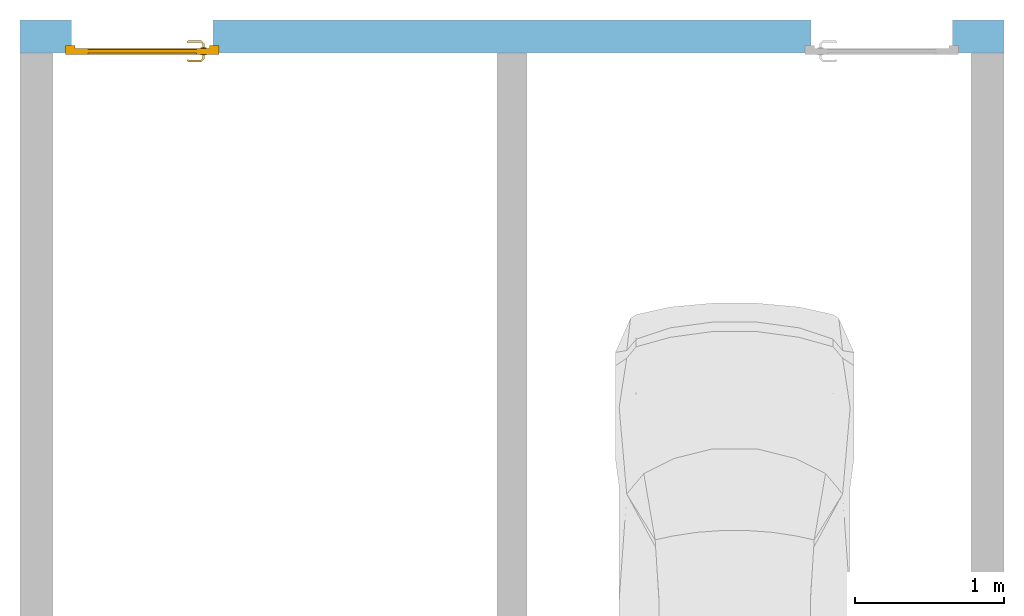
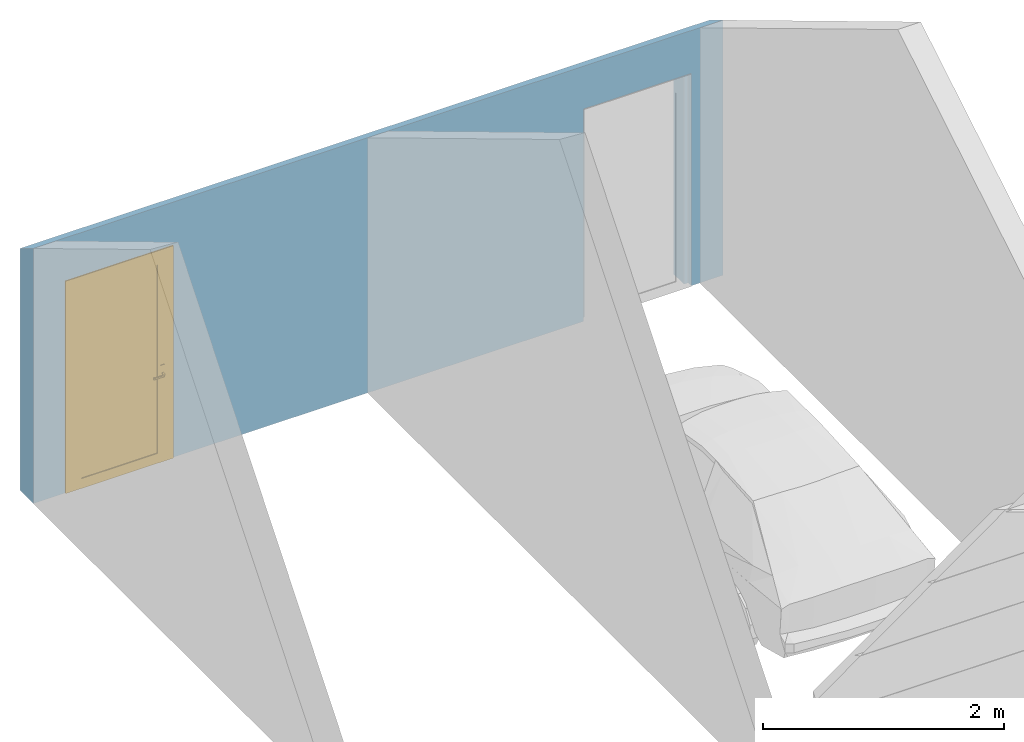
# One storey, part 2 of 3: 1 door, 2 openings, plus 1 element that does not belong to this part.
"""IFC2X3 building model written with IfcOpenShell, lengths in metres."""

from ifc_helpers import new_model, entity, si_unit, converted_unit, derived_unit, direction, frame, frame_2d, origin, place, context, subcontext, project, spatial, polyline, rectangle, extrude, clip, bounded_halfspace, faceted_brep, source, transform, mapped, material, material_list, layer, layer_set, layer_usage, type_object, type_shapes, element, fill, save


model = new_model("IFC2X3")

# Units and contexts
model_context = context("Model", 3, precision=1e-05, world=origin(), true_north=direction((6.12303176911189e-17, 1.0)))
body_context = subcontext(model_context, "Body", "Model", "MODEL_VIEW")
ifc_project = project(units=[si_unit("LENGTHUNIT", "METRE"), si_unit("AREAUNIT", "SQUARE_METRE"), si_unit("VOLUMEUNIT", "CUBIC_METRE"), converted_unit("PLANEANGLEUNIT", "DEGREE", entity("IfcRatioMeasure", 0.0174532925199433), si_unit("PLANEANGLEUNIT", "RADIAN"), dimensions=[0, 0, 0, 0, 0, 0, 0]), si_unit("MASSUNIT", "GRAM", prefix="KILO"), si_unit("TIMEUNIT", "SECOND"), si_unit("FREQUENCYUNIT", "HERTZ"), si_unit("THERMODYNAMICTEMPERATUREUNIT", "DEGREE_CELSIUS"), derived_unit("THERMALTRANSMITTANCEUNIT", [(si_unit("MASSUNIT", "GRAM", prefix="KILO"), 1), (si_unit("THERMODYNAMICTEMPERATUREUNIT", "KELVIN"), -1), (si_unit("TIMEUNIT", "SECOND"), -3)]), derived_unit("VOLUMETRICFLOWRATEUNIT", [(si_unit("LENGTHUNIT", "METRE"), 3), (si_unit("TIMEUNIT", "SECOND"), -1)]), si_unit("ELECTRICCURRENTUNIT", "AMPERE"), si_unit("ELECTRICVOLTAGEUNIT", "VOLT"), si_unit("POWERUNIT", "WATT"), si_unit("FORCEUNIT", "NEWTON", prefix="KILO"), si_unit("ILLUMINANCEUNIT", "LUX"), si_unit("LUMINOUSFLUXUNIT", "LUMEN"), si_unit("LUMINOUSINTENSITYUNIT", "CANDELA"), derived_unit("USERDEFINED", [(si_unit("MASSUNIT", "GRAM", prefix="KILO"), -1), (si_unit("LENGTHUNIT", "METRE"), -2), (si_unit("TIMEUNIT", "SECOND"), 3), (si_unit("LUMINOUSFLUXUNIT", "LUMEN"), 1)]), derived_unit("LINEARVELOCITYUNIT", [(si_unit("LENGTHUNIT", "METRE"), 1), (si_unit("TIMEUNIT", "SECOND"), -1)]), si_unit("PRESSUREUNIT", "PASCAL"), derived_unit("USERDEFINED", [(si_unit("LENGTHUNIT", "METRE"), -2), (si_unit("MASSUNIT", "GRAM", prefix="KILO"), 1), (si_unit("TIMEUNIT", "SECOND"), -2)])], contexts=[model_context])

# Site, building, storey
site_placement = place(None, origin())
site = spatial("IfcSite", under=ifc_project, at=site_placement, Name="Surface", CompositionType="ELEMENT")
building_placement = place(site_placement, origin())
building = spatial("IfcBuilding", under=site, at=building_placement, CompositionType="ELEMENT")
storey_placement = place(building_placement, origin())
storey = spatial("IfcBuildingStorey", under=building, at=storey_placement, Name="Plan du rez de chaussée", CompositionType="ELEMENT", Elevation=0.0)

# Wall, openings, door
ifc_material_1 = material(Name="Maçonnerie - Enduit")
ifc_layer_1 = layer(ifc_material_1, 0.02)
ifc_material_2 = material(Name="Maçonnerie - Béton")
ifc_layer_2 = layer(ifc_material_2, 0.2)
ifc_layer_set = layer_set([ifc_layer_1, ifc_layer_2], Name="Mur de base:Ext.BBM + enduit 22")
ifc_layer_usage = layer_usage(ifc_layer_set, "AXIS2", "NEGATIVE", 0.11)
wall_type = type_object("IfcWallType", Name="Mur de base:Ext.BBM + enduit 22", PredefinedType="STANDARD", material=ifc_layer_set)
wall_placement = place(storey_placement, frame((-9.92801835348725, 2.5851324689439, 0.0)))
wall = element("IfcWallStandardCase", 1, at=wall_placement, inside=storey, type_object=wall_type, material=ifc_layer_usage, Name="Mur de base:Ext.BBM + enduit 22", ObjectType="Mur de base:Ext.BBM + enduit 22", context=body_context, shape_type="Clipping", body=[
    clip(extrude(rectangle(XDim=6.60000000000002, YDim=0.22, at=frame_2d((3.30000000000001, 0.0), x_axis=(-1.0, 0.0))), origin(), (0.0, 0.0, 1.0), 2.58218933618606), bounded_halfspace(frame((0.0, -0.11, 2.58218933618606), z_axis=(0.0, 0.515038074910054, 0.857167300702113), x_axis=(-1.0, 0.0, 0.0)), False, frame((0.0, -0.11, 2.58218933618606)), polyline([(0.0, 0.0), (0.219999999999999, 0.0), (3.2, 0.0), (3.4, 0.0), (6.38000000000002, 0.0), (6.60000000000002, 0.0), (6.60000000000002, 0.22), (0.0, 0.22), (0.0, 0.0)]))),
])
opening_1_placement = place(wall_placement, frame((0.305000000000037, -0.410000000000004, 0.0)))
opening_1 = element("IfcOpeningElement", 2, at=opening_1_placement, cuts=wall, Name="Mur de base:Ext.BBM + enduit 22", ObjectType="Opening", context=body_context, shape_type="Brep", body=[
    faceted_brep([(0.98999999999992, 0.820000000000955, 2.11000000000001), (0.0400000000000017, 0.820000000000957, 2.11000000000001), (0.0400000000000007, 0.350000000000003, 2.11000000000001), (0.989999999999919, 0.35, 2.11000000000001), (0.0400000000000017, 0.820000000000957, 0.0), (0.98999999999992, 0.820000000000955, 0.0), (0.989999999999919, 0.35, 0.0), (1.02999999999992, 0.35, 0.0), (1.02999999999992, 0.3, 0.0), (0.989999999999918, 0.3, 0.0), (0.989999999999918, 0.0, 0.0), (0.0399999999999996, 0.0, 0.0), (0.0399999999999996, 0.300000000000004, 0.0), (0.0, 0.300000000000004, 0.0), (0.0, 0.350000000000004, 0.0), (0.0400000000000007, 0.350000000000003, 0.0), (0.989999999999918, 0.0, 2.11000000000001), (0.0399999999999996, 0.0, 2.11000000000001), (1.02999999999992, 0.3, 2.15000000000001), (0.0, 0.300000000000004, 2.15000000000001), (0.0400000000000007, 0.300000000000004, 2.11000000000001), (0.989999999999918, 0.3, 2.11000000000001), (1.02999999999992, 0.35, 2.15000000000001), (0.0, 0.350000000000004, 2.15000000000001)], [[[0, 1, 2, 3]], [[4, 5, 6, 7, 8, 9, 10, 11, 12, 13, 14, 15]], [[1, 0, 5, 4]], [[5, 0, 3, 6]], [[16, 17, 11, 10]], [[1, 4, 15, 2]], [[9, 8, 18, 19, 13, 12, 20, 21]], [[8, 7, 22, 18]], [[7, 6, 3, 2, 15, 14, 23, 22]], [[19, 18, 22, 23]], [[13, 19, 23, 14]], [[11, 17, 20, 12]], [[16, 10, 9, 21]], [[17, 16, 21, 20]]]),
])
opening_2_placement = place(wall_placement, frame((5.26500000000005, -0.41000000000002, 0.0)))
element("IfcOpeningElement", 3, at=opening_2_placement, cuts=wall, Name="Mur de base:Ext.BBM + enduit 22", ObjectType="Opening", context=body_context, shape_type="Brep", body=[
    faceted_brep([(0.989999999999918, 0.0, 2.11000000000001), (0.989999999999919, 0.3, 2.11000000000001), (0.0400000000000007, 0.300000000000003, 2.11000000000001), (0.0399999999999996, 0.0, 2.11000000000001), (0.989999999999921, 0.820000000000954, 0.0), (0.989999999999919, 0.35, 0.0), (1.02999999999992, 0.35, 0.0), (1.02999999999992, 0.3, 0.0), (0.989999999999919, 0.3, 0.0), (0.989999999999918, 0.0, 0.0), (0.0399999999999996, 0.0, 0.0), (0.0400000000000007, 0.300000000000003, 0.0), (0.0, 0.300000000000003, 0.0), (0.0, 0.350000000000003, 0.0), (0.0400000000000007, 0.350000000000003, 0.0), (0.0400000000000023, 0.820000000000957, 0.0), (0.989999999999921, 0.820000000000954, 2.11000000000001), (0.0400000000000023, 0.820000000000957, 2.11000000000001), (0.989999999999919, 0.35, 2.11000000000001), (1.02999999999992, 0.3, 2.15000000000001), (0.0, 0.300000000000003, 2.15000000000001), (0.0, 0.350000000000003, 2.15000000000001), (1.02999999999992, 0.35, 2.15000000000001), (0.0400000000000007, 0.350000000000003, 2.11000000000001)], [[[0, 1, 2, 3]], [[4, 5, 6, 7, 8, 9, 10, 11, 12, 13, 14, 15]], [[16, 4, 15, 17]], [[3, 2, 11, 10]], [[3, 10, 9, 0]], [[16, 18, 5, 4]], [[11, 2, 1, 8, 7, 19, 20, 12]], [[12, 20, 21, 13]], [[13, 21, 22, 6, 5, 18, 23, 14]], [[19, 22, 21, 20]], [[7, 6, 22, 19]], [[9, 8, 1, 0]], [[15, 14, 23, 17]], [[17, 23, 18, 16]]]),
])
ifc_material_3 = material(Name="Poignée PVC")
ifc_material_4 = material(Name="PVC Blanc")
ifc_material_list_1 = material_list([ifc_material_3, ifc_material_4])
ifc_material_list_2 = material_list([ifc_material_3, ifc_material_4])
door_style = type_object("IfcDoorStyle", Name="93 x 210 - (90)", ConstructionType="NOTDEFINED", OperationType="SINGLE_SWING_RIGHT", ParameterTakesPrecedence=False, Sizeable=False, material=ifc_material_list_2)
shared_shape = source(origin(), body_context, "Body", "Brep", [
    faceted_brep([(0.927025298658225, -0.27258714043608, 0.907780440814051), (0.922974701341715, -0.27258714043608, 0.907780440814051), (0.918999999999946, -0.27258714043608, 0.90699999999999), (0.918999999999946, -0.27258714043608, 0.89300000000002), (0.922974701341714, -0.27258714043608, 0.892219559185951), (0.927025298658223, -0.27258714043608, 0.892219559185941), (0.930999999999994, -0.27258714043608, 0.892999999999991), (0.930999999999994, -0.27258714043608, 0.90699999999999), (0.918999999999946, -0.250101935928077, 0.90699999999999), (0.918999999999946, -0.250101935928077, 0.89300000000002), (0.922974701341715, -0.248455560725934, 0.907780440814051), (0.927025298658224, -0.246777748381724, 0.907780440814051), (0.910838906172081, -0.230591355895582, 0.907780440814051), (0.909161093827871, -0.234641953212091, 0.907780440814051), (0.825793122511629, -0.234641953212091, 0.907780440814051), (0.824115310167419, -0.230591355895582, 0.907780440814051), (0.81645104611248, -0.238255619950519, 0.907780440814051), (0.819315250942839, -0.241119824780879, 0.907780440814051), (0.930999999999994, -0.24513137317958, 0.90699999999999), (0.930999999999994, -0.24513137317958, 0.892999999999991), (0.927025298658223, -0.246777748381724, 0.892219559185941), (0.922974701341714, -0.248455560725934, 0.892219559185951), (0.90916109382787, -0.234641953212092, 0.892219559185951), (0.910838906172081, -0.230591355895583, 0.892219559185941), (0.824115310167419, -0.230591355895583, 0.89221955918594), (0.825793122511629, -0.234641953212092, 0.89221955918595), (0.81931525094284, -0.24111982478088, 0.89221955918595), (0.816451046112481, -0.23825561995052, 0.89221955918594), (0.907514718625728, -0.23861665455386, 0.89300000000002), (0.907514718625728, -0.23861665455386, 0.90699999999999), (0.912485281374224, -0.226616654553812, 0.90699999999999), (0.912485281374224, -0.226616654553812, 0.892999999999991), (0.86747710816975, -0.23861665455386, 0.90699999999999), (0.827439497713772, -0.23861665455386, 0.90699999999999), (0.827439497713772, -0.23861665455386, 0.89300000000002), (0.86747710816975, -0.23861665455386, 0.89300000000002), (0.867477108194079, -0.232462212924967, 0.907878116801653), (0.862399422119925, -0.226616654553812, 0.90699999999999), (0.822468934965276, -0.226616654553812, 0.90699999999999), (0.872554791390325, -0.226616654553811, 0.892999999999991), (0.822468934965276, -0.226616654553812, 0.892999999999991), (0.86747710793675, -0.232462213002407, 0.892121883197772), (0.813640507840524, -0.235445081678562, 0.90699999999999), (0.813640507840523, -0.235445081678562, 0.892999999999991), (0.822125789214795, -0.243930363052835, 0.89300000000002), (0.822125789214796, -0.243930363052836, 0.90699999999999)], [[[0, 1, 2, 3, 4, 5, 6, 7]], [[8, 9, 3, 2]], [[1, 10, 8, 2]], [[1, 0, 11, 12, 13, 10]], [[14, 15, 16, 17]], [[7, 18, 11, 0]], [[18, 7, 6, 19]], [[6, 5, 20, 19]], [[5, 4, 21, 22, 23, 20]], [[24, 25, 26, 27]], [[4, 3, 9, 21]], [[28, 9, 8, 29]], [[8, 10, 13, 29]], [[18, 30, 12, 11]], [[31, 30, 18, 19]], [[19, 20, 23, 31]], [[21, 9, 28, 22]], [[28, 29, 32, 33, 34, 35]], [[36, 32, 13]], [[37, 38, 15]], [[37, 12, 30]], [[36, 12, 37]], [[14, 32, 36]], [[36, 15, 14]], [[29, 13, 32]], [[32, 14, 33]], [[12, 36, 13]], [[15, 36, 37]], [[30, 31, 39, 40, 38, 37]], [[23, 41, 39]], [[24, 39, 41]], [[39, 31, 23]], [[39, 24, 40]], [[22, 35, 41]], [[41, 23, 22]], [[41, 35, 25]], [[35, 22, 28]], [[34, 25, 35]], [[24, 41, 25]], [[17, 16, 42, 43, 27, 26, 44, 45]], [[44, 34, 33, 45]], [[33, 14, 17, 45]], [[15, 38, 42, 16]], [[42, 38, 40, 43]], [[24, 27, 43, 40]], [[34, 44, 26, 25]]]),
    faceted_brep([(0.922974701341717, -0.32258714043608, 0.907780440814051), (0.927025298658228, -0.32258714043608, 0.907780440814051), (0.930999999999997, -0.32258714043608, 0.906999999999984), (0.930999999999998, -0.32258714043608, 0.892999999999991), (0.927025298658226, -0.32258714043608, 0.892219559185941), (0.922974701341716, -0.32258714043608, 0.89221955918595), (0.918999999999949, -0.32258714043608, 0.893000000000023), (0.918999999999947, -0.32258714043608, 0.90699999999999), (0.927025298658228, -0.348591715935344, 0.907780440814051), (0.930999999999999, -0.350238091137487, 0.906999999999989), (0.922974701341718, -0.346913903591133, 0.907780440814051), (0.909298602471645, -0.360590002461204, 0.907780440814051), (0.910976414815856, -0.364640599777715, 0.907780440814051), (0.824142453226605, -0.364640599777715, 0.90778044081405), (0.825820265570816, -0.360590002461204, 0.90778044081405), (0.819342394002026, -0.354112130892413, 0.90778044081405), (0.816478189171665, -0.356976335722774, 0.90778044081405), (0.918999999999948, -0.345267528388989, 0.90699999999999), (0.918999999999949, -0.34526752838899, 0.893000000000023), (0.922974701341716, -0.346913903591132, 0.89221955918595), (0.927025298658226, -0.348591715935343, 0.89221955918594), (0.910976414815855, -0.364640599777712, 0.89221955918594), (0.909298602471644, -0.360590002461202, 0.89221955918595), (0.825820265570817, -0.360590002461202, 0.89221955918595), (0.824142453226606, -0.364640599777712, 0.89221955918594), (0.816478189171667, -0.356976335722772, 0.89221955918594), (0.819342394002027, -0.354112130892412, 0.89221955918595), (0.930999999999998, -0.350238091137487, 0.892999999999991), (0.912622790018, -0.368615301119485, 0.906999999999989), (0.907652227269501, -0.356615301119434, 0.90699999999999), (0.907652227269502, -0.356615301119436, 0.893000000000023), (0.912622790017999, -0.368615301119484, 0.892999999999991), (0.86755943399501, -0.362769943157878, 0.907878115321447), (0.872692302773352, -0.368615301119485, 0.906999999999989), (0.822496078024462, -0.368615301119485, 0.906999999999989), (0.867559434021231, -0.356615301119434, 0.90699999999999), (0.82746664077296, -0.356615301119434, 0.906999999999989), (0.867559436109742, -0.356615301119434, 0.893000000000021), (0.82746664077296, -0.356615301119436, 0.893000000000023), (0.867559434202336, -0.362769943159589, 0.892121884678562), (0.862426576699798, -0.368615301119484, 0.892999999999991), (0.822496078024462, -0.368615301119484, 0.892999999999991), (0.822152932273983, -0.351301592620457, 0.89300000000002), (0.813667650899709, -0.359786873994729, 0.892999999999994), (0.813667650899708, -0.35978687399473, 0.906999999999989), (0.822152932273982, -0.351301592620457, 0.906999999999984)], [[[0, 1, 2, 3, 4, 5, 6, 7]], [[2, 1, 8, 9]], [[1, 0, 10, 11, 12, 8]], [[13, 14, 15, 16]], [[0, 7, 17, 10]], [[18, 17, 7, 6]], [[5, 19, 18, 6]], [[5, 4, 20, 21, 22, 19]], [[23, 24, 25, 26]], [[3, 27, 20, 4]], [[9, 27, 3, 2]], [[9, 8, 12, 28]], [[10, 17, 29, 11]], [[30, 29, 17, 18]], [[18, 19, 22, 30]], [[20, 27, 31, 21]], [[28, 31, 27, 9]], [[12, 32, 33]], [[13, 33, 32]], [[33, 28, 12]], [[33, 13, 34]], [[11, 35, 32]], [[32, 12, 11]], [[32, 35, 14]], [[35, 11, 29]], [[36, 14, 35]], [[13, 32, 14]], [[30, 37, 38, 36, 35, 29]], [[39, 37, 22]], [[40, 41, 24]], [[40, 21, 31]], [[39, 21, 40]], [[23, 37, 39]], [[39, 24, 23]], [[30, 22, 37]], [[37, 23, 38]], [[21, 39, 22]], [[24, 39, 40]], [[31, 28, 33, 34, 41, 40]], [[42, 26, 25, 43, 44, 16, 15, 45]], [[13, 16, 44, 34]], [[36, 45, 15, 14]], [[42, 45, 36, 38]], [[38, 23, 26, 42]], [[24, 41, 43, 25]], [[44, 43, 41, 34]]]),
    faceted_brep([(0.944999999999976, -0.27758714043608, 0.770000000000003), (0.944999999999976, -0.27758714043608, 0.980000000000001), (0.935352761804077, -0.27758714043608, 0.983996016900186), (0.924999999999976, -0.27758714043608, 0.985358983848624), (0.914647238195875, -0.27758714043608, 0.983996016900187), (0.904999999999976, -0.27758714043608, 0.980000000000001), (0.904999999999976, -0.27758714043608, 0.770000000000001), (0.914647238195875, -0.27758714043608, 0.766003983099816), (0.924999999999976, -0.27758714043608, 0.764641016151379), (0.935352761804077, -0.27758714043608, 0.766003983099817), (0.924999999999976, -0.27258714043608, 0.985358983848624), (0.935352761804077, -0.27258714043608, 0.983996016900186), (0.944999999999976, -0.27258714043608, 0.980000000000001), (0.944999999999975, -0.27258714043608, 0.770000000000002), (0.935352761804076, -0.27258714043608, 0.766003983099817), (0.924999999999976, -0.27258714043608, 0.764641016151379), (0.914647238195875, -0.27258714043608, 0.766003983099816), (0.904999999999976, -0.27258714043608, 0.770000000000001), (0.904999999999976, -0.27258714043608, 0.980000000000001), (0.914647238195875, -0.27258714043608, 0.983996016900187)], [[[0, 1, 2, 3, 4, 5, 6, 7, 8, 9]], [[10, 11, 12, 13, 14, 15, 16, 17, 18, 19]], [[4, 19, 18, 5]], [[3, 10, 19, 4]], [[2, 11, 10, 3]], [[2, 1, 12, 11]], [[12, 1, 0, 13]], [[9, 14, 13, 0]], [[8, 15, 14, 9]], [[7, 16, 15, 8]], [[7, 6, 17, 16]], [[17, 6, 5, 18]]]),
    faceted_brep([(0.924999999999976, -0.32258714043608, 0.764641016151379), (0.935352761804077, -0.32258714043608, 0.766003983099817), (0.944999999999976, -0.32258714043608, 0.770000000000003), (0.944999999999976, -0.32258714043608, 0.980000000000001), (0.935352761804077, -0.32258714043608, 0.983996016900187), (0.924999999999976, -0.32258714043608, 0.985358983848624), (0.914647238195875, -0.32258714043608, 0.983996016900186), (0.904999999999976, -0.32258714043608, 0.980000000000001), (0.904999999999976, -0.32258714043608, 0.770000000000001), (0.914647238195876, -0.32258714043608, 0.766003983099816), (0.944999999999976, -0.31758714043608, 0.980000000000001), (0.944999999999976, -0.31758714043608, 0.770000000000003), (0.935352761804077, -0.31758714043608, 0.766003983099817), (0.924999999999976, -0.31758714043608, 0.764641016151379), (0.914647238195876, -0.31758714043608, 0.766003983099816), (0.904999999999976, -0.31758714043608, 0.770000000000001), (0.904999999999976, -0.31758714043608, 0.980000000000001), (0.914647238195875, -0.31758714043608, 0.983996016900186), (0.924999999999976, -0.31758714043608, 0.985358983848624), (0.935352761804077, -0.31758714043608, 0.983996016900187)], [[[0, 1, 2, 3, 4, 5, 6, 7, 8, 9]], [[10, 11, 12, 13, 14, 15, 16, 17, 18, 19]], [[1, 12, 11, 2]], [[0, 13, 12, 1]], [[9, 14, 13, 0]], [[9, 8, 15, 14]], [[15, 8, 7, 16]], [[6, 17, 16, 7]], [[5, 18, 17, 6]], [[4, 19, 18, 5]], [[4, 3, 10, 19]], [[10, 3, 2, 11]]]),
    faceted_brep([(1.02999999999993, -0.31758714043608, 0.0), (0.979999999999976, -0.31758714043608, 0.0), (0.979999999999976, -0.27758714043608, 0.0), (0.964999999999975, -0.27758714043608, 0.0), (0.964999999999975, -0.25758714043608, 0.0), (1.02999999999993, -0.25758714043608, 0.0), (1.02999999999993, -0.25758714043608, 2.15000000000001), (1.02999999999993, -0.31758714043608, 2.15000000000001), (0.964999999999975, -0.25758714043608, 2.08500000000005), (0.0649999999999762, -0.25758714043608, 2.08500000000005), (0.0649999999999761, -0.25758714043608, 0.0), (0.0, -0.25758714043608, 0.0), (0.0, -0.25758714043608, 2.15000000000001), (0.964999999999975, -0.27758714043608, 2.08500000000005), (0.979999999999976, -0.27758714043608, 2.10000000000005), (0.0499999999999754, -0.27758714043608, 2.10000000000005), (0.0499999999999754, -0.27758714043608, 0.0), (0.0649999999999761, -0.27758714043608, 0.0), (0.0649999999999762, -0.27758714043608, 2.08500000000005), (0.979999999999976, -0.31758714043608, 2.10000000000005), (0.0, -0.31758714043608, 2.15000000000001), (0.0, -0.31758714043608, 0.0), (0.0499999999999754, -0.31758714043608, 0.0), (0.0499999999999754, -0.31758714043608, 2.10000000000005)], [[[0, 1, 2, 3, 4, 5]], [[5, 6, 7, 0]], [[4, 8, 9, 10, 11, 12, 6, 5]], [[3, 13, 8, 4]], [[2, 14, 15, 16, 17, 18, 13, 3]], [[1, 19, 14, 2]], [[0, 7, 20, 21, 22, 23, 19, 1]], [[11, 21, 20, 12]], [[10, 17, 16, 22, 21, 11]], [[9, 18, 17, 10]], [[15, 23, 22, 16]], [[6, 12, 20, 7]], [[8, 13, 18, 9]], [[14, 19, 23, 15]]]),
    faceted_brep([(0.979999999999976, -0.31758714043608, 2.10000000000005), (0.0499999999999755, -0.31758714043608, 2.10000000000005), (0.0499999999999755, -0.31758714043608, 0.0), (0.979999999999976, -0.31758714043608, 0.0), (0.149999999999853, -0.31758714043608, 2.01000000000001), (0.879999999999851, -0.31758714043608, 2.01000000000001), (0.879999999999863, -0.31758714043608, 0.0999999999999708), (0.149999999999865, -0.31758714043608, 0.0999999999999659), (0.979999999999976, -0.27758714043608, 2.10000000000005), (0.979999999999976, -0.27758714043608, 0.0), (0.0499999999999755, -0.27758714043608, 0.0), (0.0499999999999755, -0.27758714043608, 2.10000000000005), (0.879999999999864, -0.27758714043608, 2.01000000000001), (0.149999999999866, -0.27758714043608, 2.01000000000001), (0.149999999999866, -0.27758714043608, 0.100000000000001), (0.879999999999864, -0.27758714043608, 0.100000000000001), (0.149999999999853, -0.30958714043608, 2.01000000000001), (0.149999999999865, -0.30958714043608, 0.0999999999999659), (0.879999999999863, -0.30958714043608, 0.0999999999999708), (0.879999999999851, -0.30958714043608, 2.01000000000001), (0.879999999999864, -0.28558714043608, 2.01000000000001), (0.879999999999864, -0.28558714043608, 0.100000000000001), (0.149999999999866, -0.28558714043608, 0.100000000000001), (0.149999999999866, -0.28558714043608, 2.01000000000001)], [[[0, 1, 2, 3], [4, 5, 6, 7]], [[8, 9, 10, 11], [12, 13, 14, 15]], [[3, 9, 8, 0]], [[2, 10, 9, 3]], [[1, 11, 10, 2]], [[0, 8, 11, 1]], [[16, 17, 18, 19]], [[16, 4, 7, 17]], [[17, 7, 6, 18]], [[18, 6, 5, 19]], [[19, 5, 4, 16]], [[20, 21, 22, 23]], [[20, 12, 15, 21]], [[21, 15, 14, 22]], [[22, 14, 13, 23]], [[23, 13, 12, 20]]]),
])
type_shapes(door_style, [shared_shape])
door_placement = place(opening_1_placement, frame((0.0, 0.607587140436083, 0.0)))
door = element("IfcDoor", 4, at=door_placement, inside=storey, type_object=door_style, material=ifc_material_list_1, Name="FR_PVC Panneau Plein:93 x 210 - (90)", ObjectType="93 x 210 - (90)", OverallHeight=2.15000000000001, OverallWidth=1.02999999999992, context=body_context, shape_type="MappedRepresentation", body=[
    mapped(shared_shape, transform((0.0, 0.0, 0.0), scale=1.0)),
])
fill(opening_1, door)

save(model, "model.ifc")
